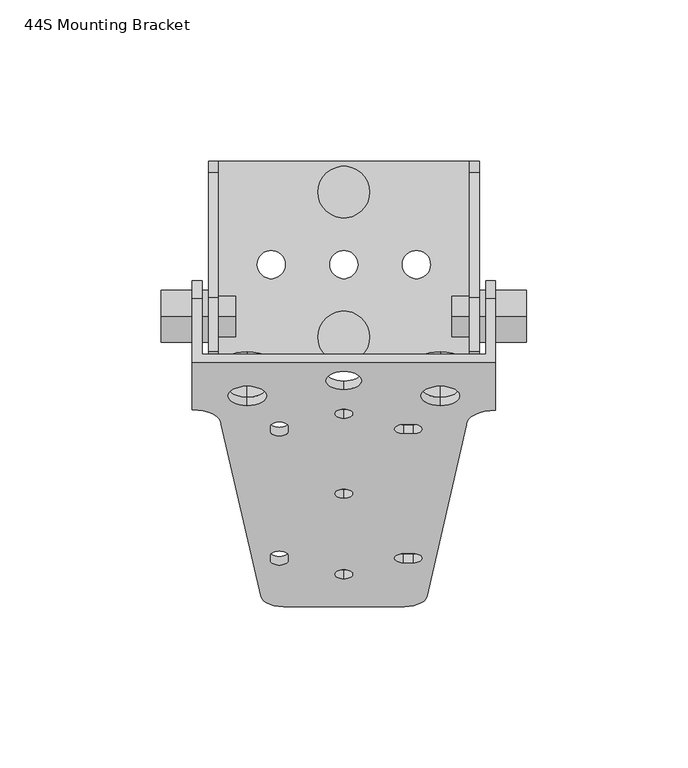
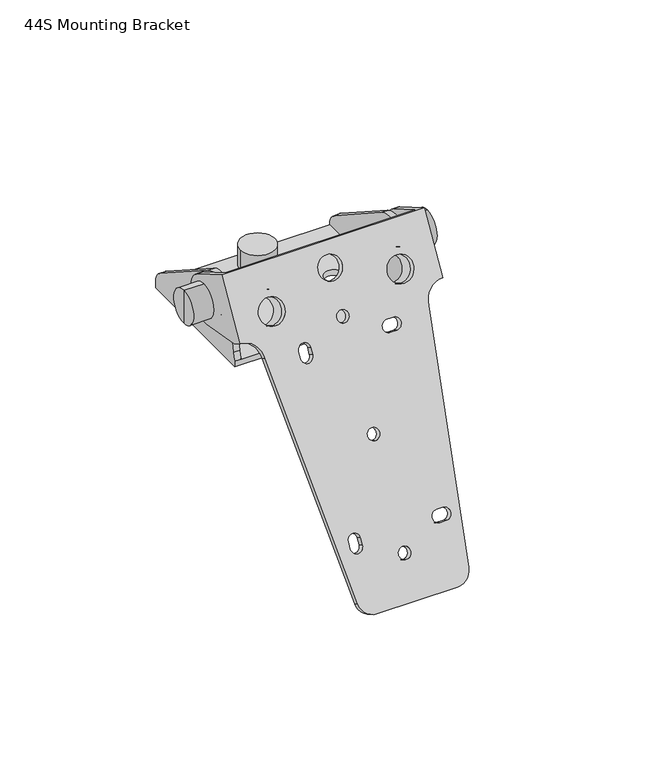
"""IFC4 building model written with IfcOpenShell, lengths in millimetres: proxy geometry, d&b xS-Series 44S Mounting Bracket : 44S Mounting Bracket."""

from ifc_helpers import new_model, si_unit, point, frame, frame_2d, origin, origin_with_axes, place, context, project, spatial, polyline, circle_curve, trimmed, segment, composite_curve, outline, extrude, source, transform, mapped, element, save
from ifc_brep_helpers import plane_surface, cylinder_surface, revolved_surface, advanced_brep


def proxy_44s_mounting_bracket_416f4c9d(model_context):
    return source(origin(), model_context, "Body", "SolidModel", [
        advanced_brep(
        [(-25.7132706, -100.2638285, -80.8742275), (-37.9949251, -46.8858683, 11.5791116), (-47.0, -42.3833308, 19.3777352), (-44.0, -42.3833308, 19.3777352), (-44.0, -27.863812, 44.5262794), (44.0, -27.863812, 44.5262794), (44.0, -42.3833308, 19.3777352), (47.0, -42.3833308, 19.3777352), (47.0, -42.5402286, 19.1059802), (37.9541317, -47.0631628, 11.2720284), (25.7132706, -100.2638285, -80.8742275), (18.7591389, -103.363812, -86.2435565), (-18.7591389, -103.363812, -86.2435565), (-29.9380242, -41.1227836, 21.561067), (-29.9380242, -35.1227836, 31.9533718), (29.9380242, -41.1227836, 21.561067), (29.9380242, -35.1227836, 31.9533718), (0.0, -94.738812, -71.3046183), (0.0, -91.988812, -66.5414786), (0.0, -44.988812, 14.8649094), (0.0, -42.238812, 19.6280491), (0.0, -36.113812, 30.2368603), (0.0, -30.613812, 39.7631397), (-22.75, -47.613812, 10.318276), (-22.75, -49.113812, 7.7201998), (-17.25, -49.113812, 7.7201998), (-17.25, -47.613812, 10.318276), (21.5, -46.988812, 11.4008077), (18.5, -46.988812, 11.4008077), (18.5, -49.738812, 6.637668), (21.5, -49.738812, 6.637668), (-17.25, -89.113812, -61.5618325), (-17.25, -87.613812, -58.9637563), (-22.75, -87.613812, -58.9637563), (-22.75, -89.113812, -61.5618325), (18.5, -89.738812, -62.6443643), (21.5, -89.738812, -62.6443643), (21.5, -86.988812, -57.8812246), (18.5, -86.988812, -57.8812246), (0.0, -69.738812, -28.0033481), (0.0, -66.988812, -23.2402084), (-25.7132706, -102.8619047, -79.3742275), (-18.7591389, -105.9618882, -84.7435565), (18.7591389, -105.9618882, -84.7435565), (25.7132706, -102.8619047, -79.3742275), (37.9541317, -49.661239, 12.7720284), (47.0, -45.1383049, 20.6059802), (47.0, -30.4618882, 46.0262794), (-47.0, -30.4618882, 46.0262794), (-47.0, -44.981407, 20.8777352), (-37.9949251, -49.4839445, 13.0791116), (-29.9380242, -43.7208598, 23.061067), (-29.9380242, -37.7208598, 33.4533718), (29.9380242, -43.7208598, 23.061067), (29.9380242, -37.7208598, 33.4533718), (0.0, -97.3368882, -69.8046183), (0.0, -94.5868882, -65.0414786), (0.0, -47.5868882, 16.3649094), (0.0, -44.8368882, 21.1280491), (0.0, -38.7118882, 31.7368603), (0.0, -33.2118882, 41.2631397), (-22.75, -50.2118882, 11.818276), (-17.25, -50.2118882, 11.818276), (-17.25, -51.7118882, 9.2201998), (-22.75, -51.7118882, 9.2201998), (21.5, -49.5868882, 12.9008077), (21.5, -52.3368882, 8.137668), (18.5, -52.3368882, 8.137668), (18.5, -49.5868882, 12.9008077), (-17.25, -91.7118882, -60.0618325), (-22.75, -91.7118882, -60.0618325), (-22.75, -90.2118882, -57.4637563), (-17.25, -90.2118882, -57.4637563), (18.5, -92.3368882, -61.1443643), (18.5, -89.5868882, -56.3812246), (21.5, -89.5868882, -56.3812246), (21.5, -92.3368882, -61.1443643), (0.0, -72.3368882, -26.5033481), (0.0, -69.5868882, -21.7402084), (-47.0, -10.543304, 34.5262794), (-47.0, -17.9534339, 14.1671147), (-47.0, -40.1316648, 18.0777352), (47.0, -10.543304, 34.5262794), (44.0, -10.543304, 34.5262794), (-44.0, -10.543304, 34.5262794), (47.0, -40.1316648, 18.0777352), (47.0, -17.9534339, 14.1671147), (44.0, -17.9534339, 14.1671147), (44.0, -40.1316648, 18.0777352), (-44.0, -40.1316648, 18.0777352), (-44.0, -17.9534339, 14.1671147)],
        [
            (0, 1),
            (1, 2, circle_curve(frame((-47.0, -46.8858683, 11.5791116), z_axis=(0.0, -0.8660254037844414, 0.4999999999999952), x_axis=(0.0, 0.4999999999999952, 0.8660254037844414)), 9.0050749)),
            (2, 3),
            (3, 4),
            (4, 5),
            (5, 6),
            (6, 7),
            (7, 8),
            (8, 9, circle_curve(frame((47.0, -47.0631628, 11.2720284), z_axis=(0.0, -0.8660254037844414, 0.4999999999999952), x_axis=(0.0, 0.4999999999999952, 0.8660254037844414)), 9.0458683)),
            (9, 10),
            (10, 11, circle_curve(frame((18.7591389, -99.863812, -80.1813787), z_axis=(0.0, 0.8660254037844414, -0.4999999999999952), x_axis=(0.0, 0.4999999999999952, 0.8660254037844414)), 7.0)),
            (11, 12),
            (12, 0, circle_curve(frame((-18.7591389, -99.863812, -80.1813787), z_axis=(0.0, 0.8660254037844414, -0.4999999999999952), x_axis=(0.0, 0.4999999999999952, 0.8660254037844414)), 7.0)),
            (13, 14, circle_curve(frame((-29.9380242, -38.1227836, 26.7572194), z_axis=(0.0, -0.8660254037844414, 0.4999999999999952), x_axis=(0.0, 0.4999999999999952, 0.8660254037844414)), 6.0)),
            (14, 13, circle_curve(frame((-29.9380242, -38.1227836, 26.7572194), z_axis=(0.0, -0.8660254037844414, 0.4999999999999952), x_axis=(0.0, 0.4999999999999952, 0.8660254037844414)), 6.0)),
            (15, 16, circle_curve(frame((29.9380242, -38.1227836, 26.7572194), z_axis=(0.0, -0.8660254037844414, 0.4999999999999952), x_axis=(0.0, 0.4999999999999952, 0.8660254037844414)), 6.0)),
            (16, 15, circle_curve(frame((29.9380242, -38.1227836, 26.7572194), z_axis=(0.0, -0.8660254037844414, 0.4999999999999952), x_axis=(0.0, 0.4999999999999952, 0.8660254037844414)), 6.0)),
            (17, 18, circle_curve(frame((0.0, -93.363812, -68.9230485), z_axis=(0.0, -0.8660254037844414, 0.4999999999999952), x_axis=(0.0, 0.4999999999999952, 0.8660254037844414)), 2.75)),
            (18, 17, circle_curve(frame((0.0, -93.363812, -68.9230485), z_axis=(0.0, -0.8660254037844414, 0.4999999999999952), x_axis=(0.0, 0.4999999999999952, 0.8660254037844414)), 2.75)),
            (19, 20, circle_curve(frame((0.0, -43.613812, 17.2464792), z_axis=(0.0, -0.8660254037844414, 0.4999999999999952), x_axis=(0.0, 0.4999999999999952, 0.8660254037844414)), 2.75)),
            (20, 19, circle_curve(frame((0.0, -43.613812, 17.2464792), z_axis=(0.0, -0.8660254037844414, 0.4999999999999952), x_axis=(0.0, 0.4999999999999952, 0.8660254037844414)), 2.75)),
            (21, 22, circle_curve(frame((0.0, -33.363812, 35.0), z_axis=(0.0, -0.8660254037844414, 0.4999999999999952), x_axis=(0.0, 0.4999999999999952, 0.8660254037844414)), 5.5)),
            (22, 21, circle_curve(frame((0.0, -33.363812, 35.0), z_axis=(0.0, -0.8660254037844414, 0.4999999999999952), x_axis=(0.0, 0.4999999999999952, 0.8660254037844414)), 5.5)),
            (23, 24),
            (24, 25, circle_curve(frame((-20.0, -49.113812, 7.7201998), z_axis=(0.0, -0.8660254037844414, 0.4999999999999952), x_axis=(0.0, 0.4999999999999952, 0.8660254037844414)), 2.75)),
            (25, 26),
            (26, 23, circle_curve(frame((-20.0, -47.613812, 10.318276), z_axis=(0.0, -0.8660254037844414, 0.4999999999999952), x_axis=(0.0, 0.4999999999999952, 0.8660254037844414)), 2.75)),
            (27, 28),
            (28, 29, circle_curve(frame((18.5, -48.363812, 9.0192379), z_axis=(0.0, -0.8660254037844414, 0.4999999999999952), x_axis=(0.0, 0.4999999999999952, 0.8660254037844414)), 2.75)),
            (29, 30),
            (30, 27, circle_curve(frame((21.5, -48.363812, 9.0192379), z_axis=(0.0, -0.8660254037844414, 0.4999999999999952), x_axis=(0.0, 0.4999999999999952, 0.8660254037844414)), 2.75)),
            (31, 32),
            (32, 33, circle_curve(frame((-20.0, -87.613812, -58.9637563), z_axis=(0.0, -0.8660254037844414, 0.4999999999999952), x_axis=(0.0, 0.4999999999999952, 0.8660254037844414)), 2.75)),
            (33, 34),
            (34, 31, circle_curve(frame((-20.0, -89.113812, -61.5618325), z_axis=(0.0, -0.8660254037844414, 0.4999999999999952), x_axis=(0.0, 0.4999999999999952, 0.8660254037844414)), 2.75)),
            (35, 36),
            (36, 37, circle_curve(frame((21.5, -88.363812, -60.2627944), z_axis=(0.0, -0.8660254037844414, 0.4999999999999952), x_axis=(0.0, 0.4999999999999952, 0.8660254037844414)), 2.75)),
            (37, 38),
            (38, 35, circle_curve(frame((18.5, -88.363812, -60.2627944), z_axis=(0.0, -0.8660254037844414, 0.4999999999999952), x_axis=(0.0, 0.4999999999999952, 0.8660254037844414)), 2.75)),
            (39, 40, circle_curve(frame((0.0, -68.363812, -25.6217783), z_axis=(0.0, -0.8660254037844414, 0.4999999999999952), x_axis=(0.0, 0.4999999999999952, 0.8660254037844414)), 2.75)),
            (40, 39, circle_curve(frame((0.0, -68.363812, -25.6217783), z_axis=(0.0, -0.8660254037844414, 0.4999999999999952), x_axis=(0.0, 0.4999999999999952, 0.8660254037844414)), 2.75)),
            (41, 42, circle_curve(frame((-18.7591389, -102.4618882, -78.6813787), z_axis=(0.0, -0.8660254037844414, 0.4999999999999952), x_axis=(0.0, 0.4999999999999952, 0.8660254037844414)), 7.0)),
            (42, 43),
            (43, 44, circle_curve(frame((18.7591389, -102.4618882, -78.6813787), z_axis=(0.0, -0.8660254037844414, 0.4999999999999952), x_axis=(0.0, 0.4999999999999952, 0.8660254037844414)), 7.0)),
            (44, 45),
            (45, 46, circle_curve(frame((47.0, -49.661239, 12.7720284), z_axis=(0.0, 0.8660254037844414, -0.4999999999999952), x_axis=(0.0, 0.4999999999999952, 0.8660254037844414)), 9.0458683)),
            (46, 47),
            (47, 48),
            (48, 49),
            (49, 50, circle_curve(frame((-47.0, -49.4839445, 13.0791116), z_axis=(0.0, 0.8660254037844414, -0.4999999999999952), x_axis=(0.0, 0.4999999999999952, 0.8660254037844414)), 9.0050749)),
            (50, 41),
            (51, 52, circle_curve(frame((-29.9380242, -40.7208598, 28.2572194), z_axis=(0.0, 0.8660254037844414, -0.4999999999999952), x_axis=(0.0, 0.4999999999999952, 0.8660254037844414)), 6.0)),
            (52, 51, circle_curve(frame((-29.9380242, -40.7208598, 28.2572194), z_axis=(0.0, 0.8660254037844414, -0.4999999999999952), x_axis=(0.0, 0.4999999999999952, 0.8660254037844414)), 6.0)),
            (53, 54, circle_curve(frame((29.9380242, -40.7208598, 28.2572194), z_axis=(0.0, 0.8660254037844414, -0.4999999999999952), x_axis=(0.0, 0.4999999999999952, 0.8660254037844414)), 6.0)),
            (54, 53, circle_curve(frame((29.9380242, -40.7208598, 28.2572194), z_axis=(0.0, 0.8660254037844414, -0.4999999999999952), x_axis=(0.0, 0.4999999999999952, 0.8660254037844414)), 6.0)),
            (55, 56, circle_curve(frame((0.0, -95.9618882, -67.4230485), z_axis=(0.0, 0.8660254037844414, -0.4999999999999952), x_axis=(0.0, 0.4999999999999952, 0.8660254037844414)), 2.75)),
            (56, 55, circle_curve(frame((0.0, -95.9618882, -67.4230485), z_axis=(0.0, 0.8660254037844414, -0.4999999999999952), x_axis=(0.0, 0.4999999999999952, 0.8660254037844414)), 2.75)),
            (57, 58, circle_curve(frame((0.0, -46.2118882, 18.7464792), z_axis=(0.0, 0.8660254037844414, -0.4999999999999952), x_axis=(0.0, 0.4999999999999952, 0.8660254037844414)), 2.75)),
            (58, 57, circle_curve(frame((0.0, -46.2118882, 18.7464792), z_axis=(0.0, 0.8660254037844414, -0.4999999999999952), x_axis=(0.0, 0.4999999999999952, 0.8660254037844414)), 2.75)),
            (59, 60, circle_curve(frame((0.0, -35.9618882, 36.5), z_axis=(0.0, 0.8660254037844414, -0.4999999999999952), x_axis=(0.0, 0.4999999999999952, 0.8660254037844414)), 5.5)),
            (60, 59, circle_curve(frame((0.0, -35.9618882, 36.5), z_axis=(0.0, 0.8660254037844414, -0.4999999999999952), x_axis=(0.0, 0.4999999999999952, 0.8660254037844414)), 5.5)),
            (61, 62, circle_curve(frame((-20.0, -50.2118882, 11.818276), z_axis=(0.0, 0.8660254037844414, -0.4999999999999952), x_axis=(0.0, 0.4999999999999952, 0.8660254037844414)), 2.75)),
            (62, 63),
            (63, 64, circle_curve(frame((-20.0, -51.7118882, 9.2201998), z_axis=(0.0, 0.8660254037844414, -0.4999999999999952), x_axis=(0.0, 0.4999999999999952, 0.8660254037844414)), 2.75)),
            (64, 61),
            (65, 66, circle_curve(frame((21.5, -50.9618882, 10.5192379), z_axis=(0.0, 0.8660254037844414, -0.4999999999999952), x_axis=(0.0, 0.4999999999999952, 0.8660254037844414)), 2.75)),
            (66, 67),
            (67, 68, circle_curve(frame((18.5, -50.9618882, 10.5192379), z_axis=(0.0, 0.8660254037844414, -0.4999999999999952), x_axis=(0.0, 0.4999999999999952, 0.8660254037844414)), 2.75)),
            (68, 65),
            (69, 70, circle_curve(frame((-20.0, -91.7118882, -60.0618325), z_axis=(0.0, 0.8660254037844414, -0.4999999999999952), x_axis=(0.0, 0.4999999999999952, 0.8660254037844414)), 2.75)),
            (70, 71),
            (71, 72, circle_curve(frame((-20.0, -90.2118882, -57.4637563), z_axis=(0.0, 0.8660254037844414, -0.4999999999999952), x_axis=(0.0, 0.4999999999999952, 0.8660254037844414)), 2.75)),
            (72, 69),
            (73, 74, circle_curve(frame((18.5, -90.9618882, -58.7627944), z_axis=(0.0, 0.8660254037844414, -0.4999999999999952), x_axis=(0.0, 0.4999999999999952, 0.8660254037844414)), 2.75)),
            (74, 75),
            (75, 76, circle_curve(frame((21.5, -90.9618882, -58.7627944), z_axis=(0.0, 0.8660254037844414, -0.4999999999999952), x_axis=(0.0, 0.4999999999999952, 0.8660254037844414)), 2.75)),
            (76, 73),
            (77, 78, circle_curve(frame((0.0, -70.9618882, -24.1217783), z_axis=(0.0, 0.8660254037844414, -0.4999999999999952), x_axis=(0.0, 0.4999999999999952, 0.8660254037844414)), 2.75)),
            (78, 77, circle_curve(frame((0.0, -70.9618882, -24.1217783), z_axis=(0.0, 0.8660254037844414, -0.4999999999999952), x_axis=(0.0, 0.4999999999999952, 0.8660254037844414)), 2.75)),
            (0, 41),
            (50, 1),
            (49, 2),
            (48, 79),
            (79, 80, circle_curve(frame((-47.0, -16.043304, 25.0), z_axis=(-1.0, 0.0, 0.0), x_axis=(0.0, 0.5000000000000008, 0.8660254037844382)), 11.0)),
            (80, 81),
            (81, 2),
            (47, 82),
            (82, 83),
            (83, 5),
            (4, 84),
            (84, 79),
            (46, 8),
            (7, 85),
            (85, 86),
            (86, 82, circle_curve(frame((47.0, -16.043304, 25.0), z_axis=(1.0, 0.0, 0.0), x_axis=(0.0, 0.4999999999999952, 0.8660254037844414)), 11.0)),
            (45, 9),
            (44, 10),
            (43, 11),
            (42, 12),
            (13, 51),
            (52, 14),
            (15, 53),
            (54, 16),
            (17, 55),
            (56, 18),
            (19, 57),
            (58, 20),
            (21, 59),
            (60, 22),
            (23, 61),
            (64, 24),
            (63, 25),
            (62, 26),
            (27, 65),
            (68, 28),
            (67, 29),
            (66, 30),
            (31, 69),
            (72, 32),
            (71, 33),
            (70, 34),
            (35, 73),
            (76, 36),
            (75, 37),
            (74, 38),
            (83, 87, circle_curve(frame((44.0, -16.043304, 25.0), z_axis=(-1.0, 0.0, 0.0), x_axis=(0.0, 0.4999999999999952, 0.8660254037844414)), 11.0)),
            (87, 88),
            (88, 6),
            (85, 88),
            (87, 86),
            (3, 89),
            (89, 90),
            (90, 84, circle_curve(frame((-44.0, -16.043304, 25.0), z_axis=(1.0, 0.0, 0.0), x_axis=(0.0, 0.5000000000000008, 0.8660254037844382)), 11.0)),
            (80, 90),
            (89, 81),
            (39, 77),
            (78, 40),
        ],
        [
            plane_surface(frame((-37.9541317, -47.0631628, 11.2720284), z_axis=(0.0, 0.8660254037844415, -0.4999999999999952), x_axis=(-0.1142904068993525, 0.49672369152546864, 0.8603506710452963))),
            plane_surface(frame((-37.9541317, -49.661239, 12.7720284), z_axis=(0.0, -0.8660254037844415, 0.4999999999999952), x_axis=(0.1142904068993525, -0.49672369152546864, -0.8603506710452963))),
            plane_surface(frame((-25.7132706, -100.2638285, -80.8742275), z_axis=(-0.9934473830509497, -0.05714520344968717, -0.09897839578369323), x_axis=(0.0, -0.8660254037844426, 0.4999999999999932))),
            revolved_surface(polyline([(-47.0, -44.981407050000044, 20.87773522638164), (-47.0, -42.38333079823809, 19.37773520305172)]), (-47.0, -49.4839445, 13.0791116), (0.0, -0.8660254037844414, 0.4999999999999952)),
            plane_surface(frame((-47.0, -42.3833308, 19.3777352), z_axis=(-1.0000000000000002, 0.0, 0.0), x_axis=(0.0, -0.8660254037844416, 0.49999999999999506))),
            plane_surface(frame((-47.0, -27.863812, 44.5262794), z_axis=(0.0, 0.4999999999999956, 0.8660254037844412), x_axis=(0.0, -0.8660254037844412, 0.4999999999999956))),
            plane_surface(frame((47.0, -27.863812, 44.5262794), z_axis=(1.0, 0.0, 0.0), x_axis=(0.0, -0.8660254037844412, 0.4999999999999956))),
            revolved_surface(polyline([(47.0, -45.13830491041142, 20.6059801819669), (47.0, -42.54022863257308, 19.10598014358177)]), (47.0, -49.661239, 12.7720284), (0.0, -0.8660254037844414, 0.4999999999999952)),
            plane_surface(frame((37.9541317, -47.0631628, 11.2720284), z_axis=(0.9934473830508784, -0.05714520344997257, -0.09897839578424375), x_axis=(0.0, -0.8660254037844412, 0.4999999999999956))),
            cylinder_surface(frame((18.7591389, -102.4618882, -78.6813787), z_axis=(0.0, 0.8660254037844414, -0.4999999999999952), x_axis=(0.0, 0.4999999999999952, 0.8660254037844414)), 7.0),
            plane_surface(frame((18.7591389, -103.363812, -86.2435565), z_axis=(0.0, -0.4999999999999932, -0.8660254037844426), x_axis=(0.0, -0.8660254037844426, 0.4999999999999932))),
            cylinder_surface(frame((-18.7591389, -102.4618882, -78.6813787), z_axis=(0.0, 0.8660254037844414, -0.4999999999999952), x_axis=(0.0, 0.4999999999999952, 0.8660254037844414)), 7.0),
            revolved_surface(polyline([(-29.9380242, -37.7208598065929, 33.453371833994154), (-29.9380242, -35.12278358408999, 31.95337182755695)]), (-29.9380242, -20.8022755, 16.7572194), (0.0, -0.8660254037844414, 0.4999999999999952)),
            revolved_surface(polyline([(29.9380242, -37.7208598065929, 33.453371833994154), (29.9380242, -35.12278358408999, 31.95337182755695)]), (29.9380242, -20.8022755, 16.7572194), (0.0, -0.8660254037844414, 0.4999999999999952)),
            revolved_surface(polyline([(0.0, -94.5868882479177, -65.04147866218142), (0.0, -91.98881201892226, -66.54147867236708)]), (0.0, -76.043304, -78.9230485), (0.0, -0.8660254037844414, 0.4999999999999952)),
            revolved_surface(polyline([(0.0, -44.8368882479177, 21.128049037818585), (0.0, -42.23881201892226, 19.62804902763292)]), (0.0, -26.293304, 7.2464792), (0.0, -0.8660254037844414, 0.4999999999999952)),
            revolved_surface(polyline([(0.0, -33.21188823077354, 41.263139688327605), (0.0, -30.613812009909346, 39.76313968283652)]), (0.0, -16.043304, 25.0), (0.0, -0.8660254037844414, 0.4999999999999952)),
            plane_surface(frame((-22.75, -47.613812, 10.318276), z_axis=(1.0, 0.0, 0.0), x_axis=(0.0, -0.8660254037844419, 0.49999999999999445))),
            revolved_surface(polyline([(-20.0, -50.336888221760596, 11.601769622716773), (-20.0, -47.73881201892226, 10.101769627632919)]), (-20.0, -31.793304, -2.2798002), (0.0, -0.8660254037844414, 0.4999999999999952)),
            plane_surface(frame((-17.25, -49.113812, 7.7201998), z_axis=(-1.0, 0.0, 0.0), x_axis=(0.0, -0.8660254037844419, 0.49999999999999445))),
            revolved_surface(polyline([(-20.0, -48.836888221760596, 14.199845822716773), (-20.0, -46.23881201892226, 12.699845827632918)]), (-20.0, -30.293304, 0.318276), (0.0, -0.8660254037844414, 0.4999999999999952)),
            plane_surface(frame((21.5, -46.988812, 11.4008077), z_axis=(0.0, -0.49999999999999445, -0.8660254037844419), x_axis=(0.0, -0.8660254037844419, 0.49999999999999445))),
            revolved_surface(polyline([(18.5, -49.586888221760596, 12.900807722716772), (18.5, -46.988811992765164, 11.40080771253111)]), (18.5, -31.043304, -0.9807621), (0.0, -0.8660254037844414, 0.4999999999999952)),
            plane_surface(frame((18.5, -49.738812, 6.637668), z_axis=(0.0, 0.49999999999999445, 0.8660254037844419), x_axis=(0.0, -0.8660254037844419, 0.49999999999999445))),
            revolved_surface(polyline([(21.5, -49.586888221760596, 12.900807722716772), (21.5, -46.988811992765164, 11.40080771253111)]), (21.5, -31.043304, -0.9807621), (0.0, -0.8660254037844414, 0.4999999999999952)),
            plane_surface(frame((-17.25, -89.113812, -61.5618325), z_axis=(-1.0, 0.0, 0.0), x_axis=(0.0, -0.8660254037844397, 0.49999999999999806))),
            revolved_surface(polyline([(-20.0, -88.8368882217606, -55.08218647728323), (-20.0, -86.23881201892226, -56.58218647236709)]), (-20.0, -70.293304, -68.9637563), (0.0, -0.8660254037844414, 0.4999999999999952)),
            plane_surface(frame((-22.75, -87.613812, -58.9637563), z_axis=(1.0000000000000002, 0.0, 0.0), x_axis=(0.0, -0.866025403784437, 0.500000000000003))),
            revolved_surface(polyline([(-20.0, -90.3368882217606, -57.680262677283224), (-20.0, -87.73881201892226, -59.180262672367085)]), (-20.0, -71.793304, -71.5618325), (0.0, -0.8660254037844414, 0.4999999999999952)),
            plane_surface(frame((18.5, -89.738812, -62.6443643), z_axis=(0.0, 0.500000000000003, 0.866025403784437), x_axis=(0.0, -0.866025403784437, 0.500000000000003))),
            revolved_surface(polyline([(21.5, -89.5868882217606, -56.381224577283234), (21.5, -86.98881199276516, -57.88122458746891)]), (21.5, -71.043304, -70.2627944), (0.0, -0.8660254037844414, 0.4999999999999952)),
            plane_surface(frame((21.5, -86.988812, -57.8812246), z_axis=(0.0, -0.500000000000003, -0.866025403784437), x_axis=(0.0, -0.866025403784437, 0.500000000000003))),
            revolved_surface(polyline([(18.5, -89.5868882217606, -56.381224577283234), (18.5, -86.98881199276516, -57.88122458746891)]), (18.5, -71.043304, -70.2627944), (0.0, -0.8660254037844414, 0.4999999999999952)),
            plane_surface(frame((44.0, -27.863812, 44.5262794), z_axis=(-1.0, 0.0, 0.0), x_axis=(0.0, 0.4999999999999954, 0.8660254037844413))),
            plane_surface(frame((47.0, -40.1316648, 18.0777352), z_axis=(0.0, -0.17364817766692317, -0.9848077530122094), x_axis=(-1.0, 0.0, 0.0))),
            cylinder_surface(frame((44.0, -16.043304, 25.0), z_axis=(1.0, 0.0, 0.0), x_axis=(0.0, 0.4999999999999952, 0.8660254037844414)), 11.0),
            plane_surface(frame((47.0, -42.3833308, 19.3777352), z_axis=(0.0, -0.4999999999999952, -0.8660254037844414), x_axis=(-1.0, 0.0, 0.0))),
            plane_surface(frame((-44.0, -10.543304, 34.5262794), z_axis=(1.0000000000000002, 0.0, 0.0), x_axis=(0.0, -0.8660254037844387, 0.5000000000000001))),
            plane_surface(frame((-47.0, -17.9534339, 14.1671147), z_axis=(0.0, -0.17364817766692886, -0.9848077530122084), x_axis=(1.0, 0.0, 0.0))),
            cylinder_surface(frame((-44.0, -16.043304, 25.0), z_axis=(-1.0, 0.0, 0.0), x_axis=(0.0, 0.5000000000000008, 0.8660254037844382)), 11.0),
            plane_surface(frame((-47.0, -40.1316648, 18.0777352), z_axis=(0.0, -0.5000000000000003, -0.8660254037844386), x_axis=(1.0, 0.0, 0.0))),
            revolved_surface(polyline([(0.0, -69.5868882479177, -21.74020846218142), (0.0, -66.98881201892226, -23.240208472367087)]), (0.0, -51.043304, -35.6217783), (0.0, -0.8660254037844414, 0.4999999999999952)),
        ],
        [
            (0, [[1, 2, 3, 4, 5, 6, 7, 8, 9, 10, 11, 12, 13], [14, 15], [16, 17], [18, 19], [20, 21], [22, 23], [24, 25, 26, 27], [28, 29, 30, 31], [32, 33, 34, 35], [36, 37, 38, 39], [40, 41]]),
            (1, [[42, 43, 44, 45, 46, 47, 48, 49, 50, 51], [52, 53], [54, 55], [56, 57], [58, 59], [60, 61], [62, 63, 64, 65], [66, 67, 68, 69], [70, 71, 72, 73], [74, 75, 76, 77], [78, 79]]),
            (2, [[-1, 80, -51, 81]]),
            (3, [[-2, -81, -50, 82]]),
            (4, [[-49, 83, 84, 85, 86, -82]]),
            (5, [[-83, -48, 87, 88, 89, -5, 90, 91]]),
            (6, [[-47, 92, -8, 93, 94, 95, -87]]),
            (7, [[-9, -92, -46, 96]]),
            (8, [[-10, -96, -45, 97]]),
            (9, [[-11, -97, -44, 98]]),
            (10, [[-12, -98, -43, 99]]),
            (11, [[-13, -99, -42, -80]]),
            (12, [[-14, 100, -53, 101]]),
            (12, [[-15, -101, -52, -100]]),
            (13, [[-16, 102, -55, 103]]),
            (13, [[-17, -103, -54, -102]]),
            (14, [[-18, 104, -57, 105]]),
            (14, [[-19, -105, -56, -104]]),
            (15, [[-20, 106, -59, 107]]),
            (15, [[-21, -107, -58, -106]]),
            (16, [[-22, 108, -61, 109]]),
            (16, [[-23, -109, -60, -108]]),
            (17, [[-24, 110, -65, 111]]),
            (18, [[-25, -111, -64, 112]]),
            (19, [[-26, -112, -63, 113]]),
            (20, [[-27, -113, -62, -110]]),
            (21, [[-28, 114, -69, 115]]),
            (22, [[-29, -115, -68, 116]]),
            (23, [[-30, -116, -67, 117]]),
            (24, [[-31, -117, -66, -114]]),
            (25, [[-32, 118, -73, 119]]),
            (26, [[-33, -119, -72, 120]]),
            (27, [[-34, -120, -71, 121]]),
            (28, [[-35, -121, -70, -118]]),
            (29, [[-36, 122, -77, 123]]),
            (30, [[-37, -123, -76, 124]]),
            (31, [[-38, -124, -75, 125]]),
            (32, [[-39, -125, -74, -122]]),
            (33, [[-89, 126, 127, 128, -6]]),
            (34, [[-94, 129, -127, 130]]),
            (35, [[-95, -130, -126, -88]]),
            (36, [[-93, -7, -128, -129]]),
            (37, [[131, 132, 133, -90, -4]]),
            (38, [[-85, 134, -132, 135]]),
            (39, [[-84, -91, -133, -134]]),
            (40, [[-86, -135, -131, -3]]),
            (41, [[-40, 136, -79, 137]]),
            (41, [[-41, -137, -78, -136]]),
        ],
    ),
        extrude(outline(composite_curve([segment(trimmed(circle_curve(frame_2d((0.0, 6.0)), 9.0), [point((0.0, 15.0))], [point((0.0, -3.0000001))], False, "CARTESIAN"), True, "CONTINUOUS"), segment(trimmed(circle_curve(frame_2d((0.0, 6.0)), 9.0), [point((0.0, -3.0000001))], [point((0.0, 15.0))], False, "CARTESIAN"), True, "CONTINUOUS")], self_intersect=False), holes=[composite_curve([segment(trimmed(circle_curve(frame_2d((0.0, 6.0)), 6.0), [point((0.0, 12.0))], [point((0.0, 0.0))], True, "CARTESIAN"), True, "CONTINUOUS"), segment(trimmed(circle_curve(frame_2d((0.0, 6.0)), 6.0), [point((0.0, 0.0))], [point((0.0, 12.0))], True, "CARTESIAN"), True, "CONTINUOUS")], self_intersect=False)]), frame((-29.9380242, -28.5409905, 28.1533718), z_axis=(0.0, -0.8660254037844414, 0.4999999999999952), x_axis=(-1.0, 0.0, 0.0)), (0.0, 0.0, 1.0), 7.6),
        extrude(outline(composite_curve([segment(trimmed(circle_curve(frame_2d((-59.8760484, 6.0)), 9.0), [point((-59.8760484, 15.0))], [point((-59.8760484, -3.0000001))], False, "CARTESIAN"), True, "CONTINUOUS"), segment(trimmed(circle_curve(frame_2d((-59.8760484, 6.0)), 9.0), [point((-59.8760484, -3.0000001))], [point((-59.8760484, 15.0))], False, "CARTESIAN"), True, "CONTINUOUS")], self_intersect=False), holes=[composite_curve([segment(trimmed(circle_curve(frame_2d((-59.8760484, 6.0)), 6.0), [point((-59.8760484, 12.0))], [point((-59.8760484, 0.0))], True, "CARTESIAN"), True, "CONTINUOUS"), segment(trimmed(circle_curve(frame_2d((-59.8760484, 6.0)), 6.0), [point((-59.8760484, 0.0))], [point((-59.8760484, 12.0))], True, "CARTESIAN"), True, "CONTINUOUS")], self_intersect=False)]), frame((-29.9380242, -28.5409905, 28.1533718), z_axis=(0.0, -0.8660254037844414, 0.4999999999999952), x_axis=(-1.0, 0.0, 0.0)), (0.0, 0.0, 1.0), 7.6),
        advanced_brep(
        [(-56.6, -16.043304, 25.0), (-56.6, -16.043304, 33.0047051), (-56.6, -16.043304, 16.9952949), (-47.0, -16.043304, 16.9952949), (-47.0, -16.043304, 33.0047051), (-47.0, -16.043304, 25.0)],
        [
            (0, 1),
            (1, 2, circle_curve(frame((-56.6, -16.043304, 25.0), z_axis=(-1.0, 0.0, 0.0), x_axis=(0.0, 0.0, 1.0)), 8.0047051)),
            (2, 0),
            (2, 1, circle_curve(frame((-56.6, -16.043304, 25.0), z_axis=(-1.0, 0.0, 0.0), x_axis=(0.0, 0.0, 1.0)), 8.0047051)),
            (3, 4, circle_curve(frame((-47.0, -16.043304, 25.0), z_axis=(1.0, 0.0, 0.0), x_axis=(0.0, 0.0, 1.0)), 8.0047051)),
            (4, 5),
            (5, 3),
            (4, 3, circle_curve(frame((-47.0, -16.043304, 25.0), z_axis=(1.0, 0.0, 0.0), x_axis=(0.0, 0.0, 1.0)), 8.0047051)),
            (1, 4),
            (3, 2),
        ],
        [
            plane_surface(frame((-56.6, -16.043304, 25.0), z_axis=(-1.0, 0.0, 0.0), x_axis=(0.0, 0.0, 1.0))),
            plane_surface(frame((-47.0, -16.043304, 25.0), z_axis=(1.0, 0.0, 0.0), x_axis=(0.0, 0.0, 1.0))),
            cylinder_surface(frame((-71.6, -16.043304, 25.0), z_axis=(-1.0, 0.0, 0.0), x_axis=(0.0, 0.0, 1.0)), 8.0047051),
        ],
        [
            (0, [[1, 2, 3]]),
            (0, [[-3, 4, -1]]),
            (1, [[5, 6, 7]]),
            (1, [[8, -7, -6]]),
            (2, [[-2, 9, -5, 10]]),
            (2, [[-4, -10, -8, -9]]),
        ],
    ),
        advanced_brep(
        [(-44.0, -16.043304, 16.9952949), (-44.0, -16.043304, 33.0047051), (-42.0, -16.043304, 33.0047051), (-42.0, -16.043304, 16.9952949), (-44.0, -16.043304, 25.0), (-42.0, -16.043304, 25.0)],
        [
            (0, 1, circle_curve(frame((-44.0, -16.043304, 25.0), z_axis=(1.0, 0.0, 0.0), x_axis=(0.0, 0.0, 1.0)), 8.0047051)),
            (1, 2),
            (2, 3, circle_curve(frame((-42.0, -16.043304, 25.0), z_axis=(-1.0, 0.0, 0.0), x_axis=(0.0, 0.0, 1.0)), 8.0047051)),
            (3, 0),
            (1, 0, circle_curve(frame((-44.0, -16.043304, 25.0), z_axis=(1.0, 0.0, 0.0), x_axis=(0.0, 0.0, 1.0)), 8.0047051)),
            (3, 2, circle_curve(frame((-42.0, -16.043304, 25.0), z_axis=(-1.0, 0.0, 0.0), x_axis=(0.0, 0.0, 1.0)), 8.0047051)),
            (4, 1),
            (0, 4),
            (2, 5),
            (5, 3),
        ],
        [
            cylinder_surface(frame((-71.6, -16.043304, 25.0), z_axis=(-1.0, 0.0, 0.0), x_axis=(0.0, 0.0, 1.0)), 8.0047051),
            plane_surface(frame((-44.0, -16.043304, 25.0), z_axis=(-1.0, 0.0, 0.0), x_axis=(0.0, 0.0, 1.0))),
            plane_surface(frame((-42.0, -16.043304, 25.0), z_axis=(1.0, 0.0, 0.0), x_axis=(0.0, 0.0, 1.0))),
        ],
        [
            (0, [[1, 2, 3, 4]]),
            (0, [[5, -4, 6, -2]]),
            (1, [[7, -1, 8]]),
            (1, [[-8, -5, -7]]),
            (2, [[-3, 9, 10]]),
            (2, [[-6, -10, -9]]),
        ],
    ),
        advanced_brep(
        [(-39.0, -16.043304, 18.6786387), (-39.0, -16.043304, 31.3213613), (-33.5, -16.043304, 31.3213613), (-33.5, -16.043304, 18.6786387), (-39.0, -16.043304, 25.0), (-33.5, -16.043304, 25.0)],
        [
            (0, 1, circle_curve(frame((-39.0, -16.043304, 25.0), z_axis=(1.0, 0.0, 0.0), x_axis=(0.0, 0.0, 1.0)), 6.3213613)),
            (1, 2),
            (2, 3, circle_curve(frame((-33.5, -16.043304, 25.0), z_axis=(-1.0, 0.0, 0.0), x_axis=(0.0, 0.0, 1.0)), 6.3213613)),
            (3, 0),
            (1, 0, circle_curve(frame((-39.0, -16.043304, 25.0), z_axis=(1.0, 0.0, 0.0), x_axis=(0.0, 0.0, 1.0)), 6.3213613)),
            (3, 2, circle_curve(frame((-33.5, -16.043304, 25.0), z_axis=(-1.0, 0.0, 0.0), x_axis=(0.0, 0.0, 1.0)), 6.3213613)),
            (4, 1),
            (0, 4),
            (2, 5),
            (5, 3),
        ],
        [
            cylinder_surface(frame((-71.6, -16.043304, 25.0), z_axis=(-1.0, 0.0, 0.0), x_axis=(0.0, 0.0, 1.0)), 6.3213613),
            plane_surface(frame((-39.0, -16.043304, 25.0), z_axis=(-1.0, 0.0, 0.0), x_axis=(0.0, 0.0, 1.0))),
            plane_surface(frame((-33.5, -16.043304, 25.0), z_axis=(1.0, 0.0, 0.0), x_axis=(0.0, 0.0, 1.0))),
        ],
        [
            (0, [[1, 2, 3, 4]]),
            (0, [[5, -4, 6, -2]]),
            (1, [[7, -1, 8]]),
            (1, [[-8, -5, -7]]),
            (2, [[-3, 9, 10]]),
            (2, [[-6, -10, -9]]),
        ],
    ),
        advanced_brep(
        [(47.0, -16.043304, 16.9952949), (47.0, -16.043304, 33.0047051), (56.6, -16.043304, 33.0047051), (56.6, -16.043304, 16.9952949), (47.0, -16.043304, 25.0), (56.6, -16.043304, 25.0)],
        [
            (0, 1, circle_curve(frame((47.0, -16.043304, 25.0), z_axis=(1.0, 0.0, 0.0), x_axis=(0.0, 0.0, 1.0)), 8.0047051)),
            (1, 2),
            (2, 3, circle_curve(frame((56.6, -16.043304, 25.0), z_axis=(-1.0, 0.0, 0.0), x_axis=(0.0, 0.0, 1.0)), 8.0047051)),
            (3, 0),
            (1, 0, circle_curve(frame((47.0, -16.043304, 25.0), z_axis=(1.0, 0.0, 0.0), x_axis=(0.0, 0.0, 1.0)), 8.0047051)),
            (3, 2, circle_curve(frame((56.6, -16.043304, 25.0), z_axis=(-1.0, 0.0, 0.0), x_axis=(0.0, 0.0, 1.0)), 8.0047051)),
            (4, 1),
            (0, 4),
            (2, 5),
            (5, 3),
        ],
        [
            cylinder_surface(frame((-71.6, -16.043304, 25.0), z_axis=(-1.0, 0.0, 0.0), x_axis=(0.0, 0.0, 1.0)), 8.0047051),
            plane_surface(frame((47.0, -16.043304, 25.0), z_axis=(-1.0, 0.0, 0.0), x_axis=(0.0, 0.0, 1.0))),
            plane_surface(frame((56.6, -16.043304, 25.0), z_axis=(1.0, 0.0, 0.0), x_axis=(0.0, 0.0, 1.0))),
        ],
        [
            (0, [[1, 2, 3, 4]]),
            (0, [[5, -4, 6, -2]]),
            (1, [[7, -1, 8]]),
            (1, [[-8, -5, -7]]),
            (2, [[-3, 9, 10]]),
            (2, [[-6, -10, -9]]),
        ],
    ),
        advanced_brep(
        [(42.0, -16.043304, 25.0), (42.0, -16.043304, 33.0047051), (42.0, -16.043304, 16.9952949), (44.0, -16.043304, 16.9952949), (44.0, -16.043304, 33.0047051), (44.0, -16.043304, 25.0)],
        [
            (0, 1),
            (1, 2, circle_curve(frame((42.0, -16.043304, 25.0), z_axis=(-1.0, 0.0, 0.0), x_axis=(0.0, 0.0, 1.0)), 8.0047051)),
            (2, 0),
            (2, 1, circle_curve(frame((42.0, -16.043304, 25.0), z_axis=(-1.0, 0.0, 0.0), x_axis=(0.0, 0.0, 1.0)), 8.0047051)),
            (3, 4, circle_curve(frame((44.0, -16.043304, 25.0), z_axis=(1.0, 0.0, 0.0), x_axis=(0.0, 0.0, 1.0)), 8.0047051)),
            (4, 5),
            (5, 3),
            (4, 3, circle_curve(frame((44.0, -16.043304, 25.0), z_axis=(1.0, 0.0, 0.0), x_axis=(0.0, 0.0, 1.0)), 8.0047051)),
            (1, 4),
            (3, 2),
        ],
        [
            plane_surface(frame((42.0, -16.043304, 25.0), z_axis=(-1.0, 0.0, 0.0), x_axis=(0.0, 0.0, 1.0))),
            plane_surface(frame((44.0, -16.043304, 25.0), z_axis=(1.0, 0.0, 0.0), x_axis=(0.0, 0.0, 1.0))),
            cylinder_surface(frame((-71.6, -16.043304, 25.0), z_axis=(-1.0, 0.0, 0.0), x_axis=(0.0, 0.0, 1.0)), 8.0047051),
        ],
        [
            (0, [[1, 2, 3]]),
            (0, [[-3, 4, -1]]),
            (1, [[5, 6, 7]]),
            (1, [[8, -7, -6]]),
            (2, [[-2, 9, -5, 10]]),
            (2, [[-4, -10, -8, -9]]),
        ],
    ),
        advanced_brep(
        [(33.5, -16.043304, 25.0), (33.5, -16.043304, 31.3213613), (33.5, -16.043304, 18.6786387), (39.0, -16.043304, 18.6786387), (39.0, -16.043304, 31.3213613), (39.0, -16.043304, 25.0)],
        [
            (0, 1),
            (1, 2, circle_curve(frame((33.5, -16.043304, 25.0), z_axis=(-1.0, 0.0, 0.0), x_axis=(0.0, 0.0, 1.0)), 6.3213613)),
            (2, 0),
            (2, 1, circle_curve(frame((33.5, -16.043304, 25.0), z_axis=(-1.0, 0.0, 0.0), x_axis=(0.0, 0.0, 1.0)), 6.3213613)),
            (3, 4, circle_curve(frame((39.0, -16.043304, 25.0), z_axis=(1.0, 0.0, 0.0), x_axis=(0.0, 0.0, 1.0)), 6.3213613)),
            (4, 5),
            (5, 3),
            (4, 3, circle_curve(frame((39.0, -16.043304, 25.0), z_axis=(1.0, 0.0, 0.0), x_axis=(0.0, 0.0, 1.0)), 6.3213613)),
            (1, 4),
            (3, 2),
        ],
        [
            plane_surface(frame((33.5, -16.043304, 25.0), z_axis=(-1.0, 0.0, 0.0), x_axis=(0.0, 0.0, 1.0))),
            plane_surface(frame((39.0, -16.043304, 25.0), z_axis=(1.0, 0.0, 0.0), x_axis=(0.0, 0.0, 1.0))),
            cylinder_surface(frame((-71.6, -16.043304, 25.0), z_axis=(-1.0, 0.0, 0.0), x_axis=(0.0, 0.0, 1.0)), 6.3213613),
        ],
        [
            (0, [[1, 2, 3]]),
            (0, [[-3, 4, -1]]),
            (1, [[5, 6, 7]]),
            (1, [[8, -7, -6]]),
            (2, [[-2, 9, -5, 10]]),
            (2, [[-4, -10, -8, -9]]),
        ],
    ),
        advanced_brep(
        [(39.0, -32.043304, 2.8), (39.0, 31.956696, 2.8), (-39.0, 31.956696, 2.8), (-39.0, -32.043304, 2.8), (-8.0, 22.4524055, 2.8), (8.0, 22.4524055, 2.8), (-4.3493147, 0.0, 2.8), (4.3493147, 0.0, 2.8), (-26.8553603, 0.0, 2.8), (-18.1567308, 0.0, 2.8), (26.8553603, 0.0, 2.8), (18.1567308, 0.0, 2.8), (42.0, 31.956696, 0.0), (42.0, -32.043304, 0.0), (-42.0, -32.043304, 0.0), (-42.0, 31.956696, 0.0), (-8.0, 22.4524055, 0.0), (8.0, 22.4524055, 0.0), (-4.3493147, 0.0, 0.0), (4.3493147, 0.0, 0.0), (-26.8553603, 0.0, 0.0), (-18.1567308, 0.0, 0.0), (26.8553603, 0.0, 0.0), (18.1567308, 0.0, 0.0), (-42.0, 31.956696, 2.8), (42.0, 31.956696, 2.8), (-42.0, -32.043304, 2.8), (-42.0, -30.7163008, 6.2872119), (-42.0, -26.8574722, 27.0133962), (-42.0, -10.0763582, 34.2409717), (-42.0, 28.4324065, 9.3756529), (42.0, -32.043304, 2.8), (42.0, 28.4324065, 9.3756529), (42.0, -10.0763582, 34.2409717), (42.0, -26.8574722, 27.0133962), (42.0, -30.7163008, 6.2872119), (39.0, 28.4324065, 9.3756529), (39.0, -30.7163008, 6.2872119), (39.0, -26.8574722, 27.0133962), (39.0, -10.0763582, 34.2409717), (-39.0, 28.4324065, 9.3756529), (-39.0, -10.0763582, 34.2409717), (-39.0, -26.8574722, 27.0133962), (-39.0, -30.7163008, 6.2872119)],
        [
            (0, 1),
            (1, 2),
            (2, 3),
            (3, 0),
            (4, 5, circle_curve(frame((0.0, 22.4524055, 2.8), z_axis=(0.0, 0.0, -1.0), x_axis=(1.0, 0.0, 0.0)), 8.0)),
            (5, 4, circle_curve(frame((0.0, 22.4524055, 2.8), z_axis=(0.0, 0.0, -1.0), x_axis=(1.0, 0.0, 0.0)), 8.0)),
            (6, 7, circle_curve(frame((0.0, 0.0, 2.8), z_axis=(0.0, 0.0, -1.0), x_axis=(1.0, 0.0, 0.0)), 4.3493147)),
            (7, 6, circle_curve(frame((0.0, 0.0, 2.8), z_axis=(0.0, 0.0, -1.0), x_axis=(1.0, 0.0, 0.0)), 4.3493147)),
            (8, 9, circle_curve(frame((-22.5060456, 0.0, 2.8), z_axis=(0.0, 0.0, -1.0), x_axis=(1.0, 0.0, 0.0)), 4.3493147)),
            (9, 8, circle_curve(frame((-22.5060456, 0.0, 2.8), z_axis=(0.0, 0.0, -1.0), x_axis=(1.0, 0.0, 0.0)), 4.3493147)),
            (10, 11, circle_curve(frame((22.5060456, 0.0, 2.8), z_axis=(0.0, 0.0, -1.0), x_axis=(-1.0, 0.0, 0.0)), 4.3493147)),
            (11, 10, circle_curve(frame((22.5060456, 0.0, 2.8), z_axis=(0.0, 0.0, -1.0), x_axis=(-1.0, 0.0, 0.0)), 4.3493147)),
            (12, 13),
            (13, 14),
            (14, 15),
            (15, 12),
            (16, 17, circle_curve(frame((0.0, 22.4524055, 0.0), z_axis=(0.0, 0.0, 1.0), x_axis=(1.0, 0.0, 0.0)), 8.0)),
            (17, 16, circle_curve(frame((0.0, 22.4524055, 0.0), z_axis=(0.0, 0.0, 1.0), x_axis=(1.0, 0.0, 0.0)), 8.0)),
            (18, 19, circle_curve(origin_with_axes(), 4.3493147)),
            (19, 18, circle_curve(origin_with_axes(), 4.3493147)),
            (20, 21, circle_curve(frame((-22.5060456, 0.0, 0.0), z_axis=(0.0, 0.0, 1.0), x_axis=(1.0, 0.0, 0.0)), 4.3493147)),
            (21, 20, circle_curve(frame((-22.5060456, 0.0, 0.0), z_axis=(0.0, 0.0, 1.0), x_axis=(1.0, 0.0, 0.0)), 4.3493147)),
            (22, 23, circle_curve(frame((22.5060456, 0.0, 0.0), z_axis=(0.0, 0.0, 1.0), x_axis=(-1.0, 0.0, 0.0)), 4.3493147)),
            (23, 22, circle_curve(frame((22.5060456, 0.0, 0.0), z_axis=(0.0, 0.0, 1.0), x_axis=(-1.0, 0.0, 0.0)), 4.3493147)),
            (15, 24),
            (24, 2),
            (1, 25),
            (25, 12),
            (14, 26),
            (26, 27, circle_curve(frame((-42.0, -40.9867523, 8.1993782), z_axis=(1.0, 0.0, 0.0), x_axis=(0.0, -1.0, 0.0)), 10.4469399)),
            (27, 28),
            (28, 29, circle_curve(frame((-42.0, -16.043304, 25.0), z_axis=(-1.0, 0.0, 0.0), x_axis=(0.0, -1.0, 0.0)), 11.0)),
            (29, 30),
            (30, 24, circle_curve(frame((-42.0, 24.2533538, 2.9035799), z_axis=(-1.0, 0.0, 0.0), x_axis=(0.0, -1.0, 0.0)), 7.7040386)),
            (13, 31),
            (31, 0),
            (3, 26),
            (25, 32, circle_curve(frame((42.0, 24.2533538, 2.9035799), z_axis=(1.0, 0.0, 0.0), x_axis=(0.0, -1.0, 0.0)), 7.7040386)),
            (32, 33),
            (33, 34, circle_curve(frame((42.0, -16.043304, 25.0), z_axis=(1.0, 0.0, 0.0), x_axis=(0.0, -1.0, 0.0)), 11.0)),
            (34, 35),
            (35, 31, circle_curve(frame((42.0, -40.9867523, 8.1993782), z_axis=(-1.0, 0.0, 0.0), x_axis=(0.0, -1.0, 0.0)), 10.4469399)),
            (36, 1, circle_curve(frame((39.0, 24.2533538, 2.9035799), z_axis=(-1.0, 0.0, 0.0), x_axis=(0.0, -1.0, 0.0)), 7.7040386)),
            (0, 37, circle_curve(frame((39.0, -40.9867523, 8.1993782), z_axis=(1.0, 0.0, 0.0), x_axis=(0.0, -1.0, 0.0)), 10.4469399)),
            (37, 38),
            (38, 39, circle_curve(frame((39.0, -16.043304, 25.0), z_axis=(-1.0, 0.0, 0.0), x_axis=(0.0, -1.0, 0.0)), 11.0)),
            (39, 36),
            (39, 33),
            (32, 36),
            (38, 34),
            (37, 35),
            (40, 41),
            (41, 42, circle_curve(frame((-39.0, -16.043304, 25.0), z_axis=(1.0, 0.0, 0.0), x_axis=(0.0, -1.0, 0.0)), 11.0)),
            (42, 43),
            (43, 3, circle_curve(frame((-39.0, -40.9867523, 8.1993782), z_axis=(-1.0, 0.0, 0.0), x_axis=(0.0, -1.0, 0.0)), 10.4469399)),
            (2, 40, circle_curve(frame((-39.0, 24.2533538, 2.9035799), z_axis=(1.0, 0.0, 0.0), x_axis=(0.0, -1.0, 0.0)), 7.7040386)),
            (40, 30),
            (29, 41),
            (28, 42),
            (27, 43),
            (4, 16),
            (17, 5),
            (6, 18),
            (19, 7),
            (8, 20),
            (21, 9),
            (10, 22),
            (23, 11),
        ],
        [
            plane_surface(frame((-28.38814, 31.956696, 2.8), z_axis=(0.0, 0.0, 1.0), x_axis=(-1.0, 0.0, 0.0))),
            plane_surface(frame((-28.38814, 31.956696, 0.0), z_axis=(0.0, 0.0, -1.0), x_axis=(1.0, 0.0, 0.0))),
            plane_surface(frame((42.0, 31.956696, 2.8), z_axis=(0.0, 1.0, 0.0), x_axis=(0.0, 0.0, -1.0))),
            plane_surface(frame((-42.0, 31.956696, 2.8), z_axis=(-1.0, 0.0, 0.0), x_axis=(0.0, 0.0, -1.0))),
            plane_surface(frame((-42.0, -32.043304, 2.8), z_axis=(0.0, -1.0, 0.0), x_axis=(0.0, 0.0, -1.0))),
            plane_surface(frame((42.0, -32.043304, 2.8), z_axis=(1.0, 0.0, 0.0), x_axis=(0.0, 0.0, -1.0))),
            plane_surface(frame((39.0, -10.0763582, 34.2409717), z_axis=(-1.0, 0.0, 0.0), x_axis=(0.0, 0.8400883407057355, -0.5424496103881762))),
            plane_surface(frame((42.0, 28.4324065, 9.3756529), z_axis=(0.0, 0.5424496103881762, 0.8400883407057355), x_axis=(-1.0, 0.0, 0.0))),
            cylinder_surface(frame((39.0, -16.043304, 25.0), z_axis=(1.0, 0.0, 0.0), x_axis=(0.0, -1.0, 0.0)), 11.0),
            plane_surface(frame((42.0, -26.8574722, 27.0133962), z_axis=(0.0, -0.9831062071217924, 0.1830360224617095), x_axis=(-1.0, 0.0, 0.0))),
            revolved_surface(polyline([(39.0, -51.433692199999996, 8.1993782), (42.0, -51.433692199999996, 8.1993782)]), (39.0, -40.9867523, 8.1993782), (-1.0, 0.0, 0.0)),
            cylinder_surface(frame((39.0, 24.2533538, 2.9035799), z_axis=(1.0, 0.0, 0.0), x_axis=(0.0, -1.0, 0.0)), 7.7040386),
            plane_surface(frame((-39.0, -10.0763582, 34.2409717), z_axis=(1.0, 0.0, 0.0), x_axis=(0.0, -0.8400883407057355, 0.5424496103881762))),
            plane_surface(frame((-39.0, 28.4324065, 9.3756529), z_axis=(0.0, 0.5424496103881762, 0.8400883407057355), x_axis=(-1.0, 0.0, 0.0))),
            cylinder_surface(frame((-42.0, -16.043304, 25.0), z_axis=(1.0, 0.0, 0.0), x_axis=(0.0, -1.0, 0.0)), 11.0),
            plane_surface(frame((-39.0, -26.8574722, 27.0133962), z_axis=(0.0, -0.9831062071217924, 0.1830360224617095), x_axis=(-1.0, 0.0, 0.0))),
            revolved_surface(polyline([(-42.0, -51.433692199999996, 8.1993782), (-39.0, -51.433692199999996, 8.1993782)]), (-42.0, -40.9867523, 8.1993782), (-1.0, 0.0, 0.0)),
            cylinder_surface(frame((-42.0, 24.2533538, 2.9035799), z_axis=(1.0, 0.0, 0.0), x_axis=(0.0, -1.0, 0.0)), 7.7040386),
            revolved_surface(polyline([(8.0, 22.4524055, 0.0), (8.0, 22.4524055, 2.799999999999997)]), (0.0, 22.4524055, 50.0), (0.0, 0.0, -1.0)),
            revolved_surface(polyline([(4.3493147, 0.0, 0.0), (4.3493147, 0.0, 2.799999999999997)]), (0.0, 0.0, 50.0), (0.0, 0.0, -1.0)),
            revolved_surface(polyline([(-18.1567309, 0.0, 0.0), (-18.1567309, 0.0, 2.799999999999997)]), (-22.5060456, 0.0, 50.0), (0.0, 0.0, -1.0)),
            revolved_surface(polyline([(18.1567309, 0.0, 0.0), (18.1567309, 0.0, 2.799999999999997)]), (22.5060456, 0.0, 50.0), (0.0, 0.0, -1.0)),
        ],
        [
            (0, [[1, 2, 3, 4], [5, 6], [7, 8], [9, 10], [11, 12]]),
            (1, [[13, 14, 15, 16], [17, 18], [19, 20], [21, 22], [23, 24]]),
            (2, [[-16, 25, 26, -2, 27, 28]]),
            (3, [[-15, 29, 30, 31, 32, 33, 34, -25]]),
            (4, [[-14, 35, 36, -4, 37, -29]]),
            (5, [[-13, -28, 38, 39, 40, 41, 42, -35]]),
            (6, [[43, -1, 44, 45, 46, 47]]),
            (7, [[-47, 48, -39, 49]]),
            (8, [[-46, 50, -40, -48]]),
            (9, [[-45, 51, -41, -50]]),
            (10, [[-44, -36, -42, -51]]),
            (11, [[-43, -49, -38, -27]]),
            (12, [[52, 53, 54, 55, -3, 56]]),
            (13, [[-52, 57, -33, 58]]),
            (14, [[-53, -58, -32, 59]]),
            (15, [[-54, -59, -31, 60]]),
            (16, [[-55, -60, -30, -37]]),
            (17, [[-56, -26, -34, -57]]),
            (18, [[-5, 61, -18, 62]]),
            (18, [[-6, -62, -17, -61]]),
            (19, [[-7, 63, -20, 64]]),
            (19, [[-8, -64, -19, -63]]),
            (20, [[-9, 65, -22, 66]]),
            (20, [[-10, -66, -21, -65]]),
            (21, [[-11, 67, -24, 68]]),
            (21, [[-12, -68, -23, -67]]),
        ],
    ),
        extrude(outline(composite_curve([segment(trimmed(circle_curve(frame_2d((0.0, 22.4524055)), 8.0), [point((8.0, 22.4524055))], [point((-8.0, 22.4524055))], False, "CARTESIAN"), True, "CONTINUOUS"), segment(trimmed(circle_curve(frame_2d((0.0, 22.4524055)), 8.0), [point((-8.0, 22.4524055))], [point((8.0, 22.4524055))], False, "CARTESIAN"), True, "CONTINUOUS")], self_intersect=False)), frame((0.0, 0.0, 2.8), z_axis=(0.0, 0.0, 1.0), x_axis=(1.0, 0.0, 0.0)), (0.0, 0.0, 1.0), 9.8),
        extrude(outline(composite_curve([segment(trimmed(circle_curve(frame_2d((0.0, -22.4524055)), 8.0), [point((8.0, -22.4524055))], [point((-8.0, -22.4524055))], False, "CARTESIAN"), True, "CONTINUOUS"), segment(trimmed(circle_curve(frame_2d((0.0, -22.4524055)), 8.0), [point((-8.0, -22.4524055))], [point((8.0, -22.4524055))], False, "CARTESIAN"), True, "CONTINUOUS")], self_intersect=False)), frame((0.0, 0.0, 2.8), z_axis=(0.0, 0.0, 1.0), x_axis=(1.0, 0.0, 0.0)), (0.0, 0.0, 1.0), 9.8),
    ])


if __name__ == "__main__":
    model = new_model("IFC4")
    model_context = context("Model", 3, world=origin())
    ifc_project = project(units=[si_unit("LENGTHUNIT", "METRE", prefix="MILLI")], contexts=[model_context])
    site = spatial("IfcSite", under=ifc_project)
    building = spatial("IfcBuilding", under=site)
    placement = place(None, origin())
    proxy_44s_mounting_bracket_shape = proxy_44s_mounting_bracket_416f4c9d(model_context)
    element("IfcBuildingElementProxy", 1, Name="d&b xS-Series 44S Mounting Bracket : 44S Mounting Bracket", ObjectType="d&b xS-Series 44S Mounting Bracket : 44S Mounting Bracket", at=placement, inside=building, context=model_context, shape_type="MappedRepresentation", body=[
        mapped(proxy_44s_mounting_bracket_shape, transform((0.0, 0.0, 0.0), x_axis=(1.0, 0.0, 0.0), y_axis=(0.0, 1.0, 0.0), z_axis=(0.0, 0.0, 1.0))),
    ])
    save(model, "model.ifc")
